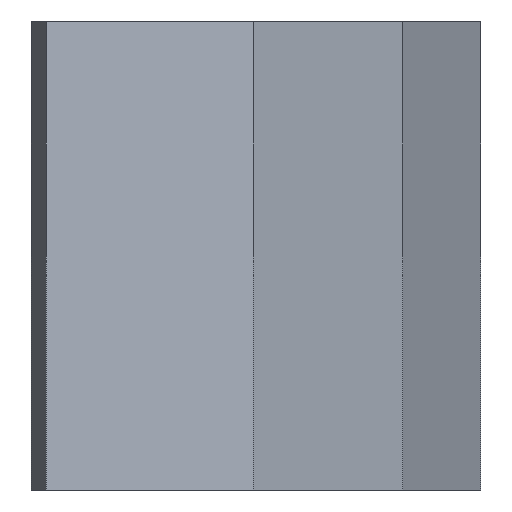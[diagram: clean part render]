
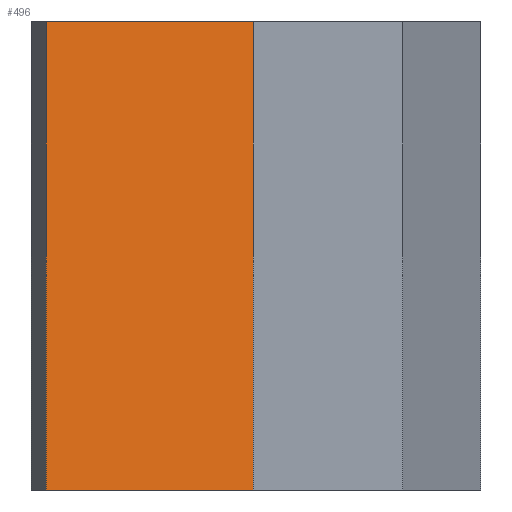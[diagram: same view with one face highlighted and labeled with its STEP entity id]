
A CAD part, left-side view. The second image highlights one B-rep face of the part: STEP entity #496.
In plain terms, the highlighted planar face has unit normal (-0.807, -0.591, 0).
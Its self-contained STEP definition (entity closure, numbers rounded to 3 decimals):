
#44 = PLANE('',#45);
#45 = AXIS2_PLACEMENT_3D('',#46,#47,#48);
#46 = CARTESIAN_POINT('',(58.89,-37.,-5.));
#47 = DIRECTION('',(0.,0.,1.));
#48 = DIRECTION('',(-1.,0.,0.));
#97 = PLANE('',#98);
#98 = AXIS2_PLACEMENT_3D('',#99,#100,#101);
#99 = CARTESIAN_POINT('',(58.89,-37.,34.));
#100 = DIRECTION('',(0.,0.,1.));
#101 = DIRECTION('',(-1.,0.,0.));
#391 = PLANE('',#392);
#392 = AXIS2_PLACEMENT_3D('',#393,#394,#395);
#393 = CARTESIAN_POINT('',(-29.504,-66.672,34.));
#394 = DIRECTION('',(0.596,0.803,-0.));
#395 = DIRECTION('',(-0.803,0.596,0.));
#428 = VERTEX_POINT('',#429);
#429 = CARTESIAN_POINT('',(-46.252,-54.246,-5.));
#450 = EDGE_CURVE('',#428,#451,#453,.T.);
#451 = VERTEX_POINT('',#452);
#452 = CARTESIAN_POINT('',(-46.252,-54.246,34.));
#453 = SURFACE_CURVE('',#454,(#457,#463),.PCURVE_S1.);
#454 = B_SPLINE_CURVE_WITH_KNOTS('',1,(#455,#456),.UNSPECIFIED.,.F.,.F.,
  (2,2),(0.,1.),.PIECEWISE_BEZIER_KNOTS.);
#455 = CARTESIAN_POINT('',(-46.252,-54.246,-5.));
#456 = CARTESIAN_POINT('',(-46.252,-54.246,34.));
#457 = PCURVE('',#391,#458);
#458 = DEFINITIONAL_REPRESENTATION('',(#459),#462);
#459 = B_SPLINE_CURVE_WITH_KNOTS('',1,(#460,#461),.UNSPECIFIED.,.F.,.F.,
  (2,2),(0.,1.),.PIECEWISE_BEZIER_KNOTS.);
#460 = CARTESIAN_POINT('',(20.854,-39.));
#461 = CARTESIAN_POINT('',(20.854,0.));
#462 = ( GEOMETRIC_REPRESENTATION_CONTEXT(2) 
PARAMETRIC_REPRESENTATION_CONTEXT() REPRESENTATION_CONTEXT('2D SPACE',''
  ) );
#463 = PCURVE('',#464,#469);
#464 = PLANE('',#465);
#465 = AXIS2_PLACEMENT_3D('',#466,#467,#468);
#466 = CARTESIAN_POINT('',(-46.252,-54.246,34.));
#467 = DIRECTION('',(0.807,0.591,-0.));
#468 = DIRECTION('',(-0.591,0.807,0.));
#469 = DEFINITIONAL_REPRESENTATION('',(#470),#473);
#470 = B_SPLINE_CURVE_WITH_KNOTS('',1,(#471,#472),.UNSPECIFIED.,.F.,.F.,
  (2,2),(0.,1.),.PIECEWISE_BEZIER_KNOTS.);
#471 = CARTESIAN_POINT('',(0.,-39.));
#472 = CARTESIAN_POINT('',(0.,0.));
#473 = ( GEOMETRIC_REPRESENTATION_CONTEXT(2) 
PARAMETRIC_REPRESENTATION_CONTEXT() REPRESENTATION_CONTEXT('2D SPACE',''
  ) );
#496 = ADVANCED_FACE('',(#497),#464,.F.);
#497 = FACE_BOUND('',#498,.F.);
#498 = EDGE_LOOP('',(#499,#522,#547,#568));
#499 = ORIENTED_EDGE('',*,*,#500,.T.);
#500 = EDGE_CURVE('',#428,#501,#503,.T.);
#501 = VERTEX_POINT('',#502);
#502 = CARTESIAN_POINT('',(-58.89,-37.,-5.));
#503 = SURFACE_CURVE('',#504,(#508,#515),.PCURVE_S1.);
#504 = LINE('',#505,#506);
#505 = CARTESIAN_POINT('',(-46.252,-54.246,-5.));
#506 = VECTOR('',#507,1.);
#507 = DIRECTION('',(-0.591,0.807,0.));
#508 = PCURVE('',#464,#509);
#509 = DEFINITIONAL_REPRESENTATION('',(#510),#514);
#510 = LINE('',#511,#512);
#511 = CARTESIAN_POINT('',(0.,-39.));
#512 = VECTOR('',#513,1.);
#513 = DIRECTION('',(1.,0.));
#514 = ( GEOMETRIC_REPRESENTATION_CONTEXT(2) 
PARAMETRIC_REPRESENTATION_CONTEXT() REPRESENTATION_CONTEXT('2D SPACE',''
  ) );
#515 = PCURVE('',#44,#516);
#516 = DEFINITIONAL_REPRESENTATION('',(#517),#521);
#517 = LINE('',#518,#519);
#518 = CARTESIAN_POINT('',(105.141,17.246));
#519 = VECTOR('',#520,1.);
#520 = DIRECTION('',(0.591,-0.807));
#521 = ( GEOMETRIC_REPRESENTATION_CONTEXT(2) 
PARAMETRIC_REPRESENTATION_CONTEXT() REPRESENTATION_CONTEXT('2D SPACE',''
  ) );
#522 = ORIENTED_EDGE('',*,*,#523,.T.);
#523 = EDGE_CURVE('',#501,#524,#526,.T.);
#524 = VERTEX_POINT('',#525);
#525 = CARTESIAN_POINT('',(-58.89,-37.,34.));
#526 = SURFACE_CURVE('',#527,(#530,#536),.PCURVE_S1.);
#527 = B_SPLINE_CURVE_WITH_KNOTS('',1,(#528,#529),.UNSPECIFIED.,.F.,.F.,
  (2,2),(0.,1.),.PIECEWISE_BEZIER_KNOTS.);
#528 = CARTESIAN_POINT('',(-58.89,-37.,-5.));
#529 = CARTESIAN_POINT('',(-58.89,-37.,34.));
#530 = PCURVE('',#464,#531);
#531 = DEFINITIONAL_REPRESENTATION('',(#532),#535);
#532 = B_SPLINE_CURVE_WITH_KNOTS('',1,(#533,#534),.UNSPECIFIED.,.F.,.F.,
  (2,2),(0.,1.),.PIECEWISE_BEZIER_KNOTS.);
#533 = CARTESIAN_POINT('',(21.381,-39.));
#534 = CARTESIAN_POINT('',(21.381,0.));
#535 = ( GEOMETRIC_REPRESENTATION_CONTEXT(2) 
PARAMETRIC_REPRESENTATION_CONTEXT() REPRESENTATION_CONTEXT('2D SPACE',''
  ) );
#536 = PCURVE('',#537,#542);
#537 = PLANE('',#538);
#538 = AXIS2_PLACEMENT_3D('',#539,#540,#541);
#539 = CARTESIAN_POINT('',(-58.89,-37.,34.));
#540 = DIRECTION('',(0.5,-0.866,0.));
#541 = DIRECTION('',(0.866,0.5,0.));
#542 = DEFINITIONAL_REPRESENTATION('',(#543),#546);
#543 = B_SPLINE_CURVE_WITH_KNOTS('',1,(#544,#545),.UNSPECIFIED.,.F.,.F.,
  (2,2),(0.,1.),.PIECEWISE_BEZIER_KNOTS.);
#544 = CARTESIAN_POINT('',(0.,-39.));
#545 = CARTESIAN_POINT('',(0.,0.));
#546 = ( GEOMETRIC_REPRESENTATION_CONTEXT(2) 
PARAMETRIC_REPRESENTATION_CONTEXT() REPRESENTATION_CONTEXT('2D SPACE',''
  ) );
#547 = ORIENTED_EDGE('',*,*,#548,.F.);
#548 = EDGE_CURVE('',#451,#524,#549,.T.);
#549 = SURFACE_CURVE('',#550,(#554,#561),.PCURVE_S1.);
#550 = LINE('',#551,#552);
#551 = CARTESIAN_POINT('',(-46.252,-54.246,34.));
#552 = VECTOR('',#553,1.);
#553 = DIRECTION('',(-0.591,0.807,0.));
#554 = PCURVE('',#464,#555);
#555 = DEFINITIONAL_REPRESENTATION('',(#556),#560);
#556 = LINE('',#557,#558);
#557 = CARTESIAN_POINT('',(0.,0.));
#558 = VECTOR('',#559,1.);
#559 = DIRECTION('',(1.,0.));
#560 = ( GEOMETRIC_REPRESENTATION_CONTEXT(2) 
PARAMETRIC_REPRESENTATION_CONTEXT() REPRESENTATION_CONTEXT('2D SPACE',''
  ) );
#561 = PCURVE('',#97,#562);
#562 = DEFINITIONAL_REPRESENTATION('',(#563),#567);
#563 = LINE('',#564,#565);
#564 = CARTESIAN_POINT('',(105.141,17.246));
#565 = VECTOR('',#566,1.);
#566 = DIRECTION('',(0.591,-0.807));
#567 = ( GEOMETRIC_REPRESENTATION_CONTEXT(2) 
PARAMETRIC_REPRESENTATION_CONTEXT() REPRESENTATION_CONTEXT('2D SPACE',''
  ) );
#568 = ORIENTED_EDGE('',*,*,#450,.F.);
